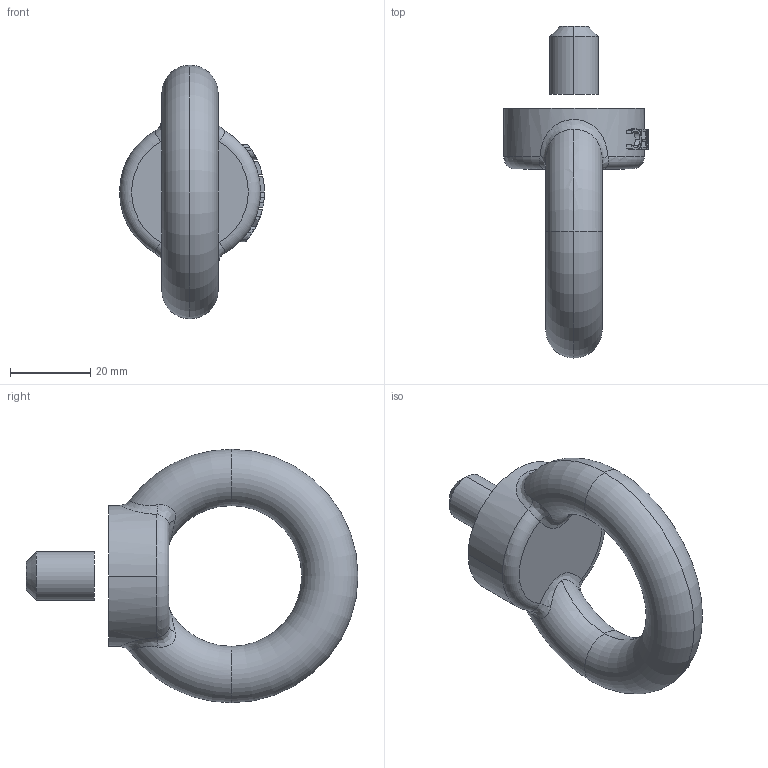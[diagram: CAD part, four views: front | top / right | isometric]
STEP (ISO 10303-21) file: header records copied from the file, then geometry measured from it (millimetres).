
FILE_DESCRIPTION(('STEP AP214'),'1');
FILE_NAME('c80312.stp','2017-03-22T15:05:59',('TraceParts'),('TraceParts S.A.'),'Spatial InterOp 3D',' ',' ');
FILE_SCHEMA(('automotive_design'));
Length unit declared in the file: millimetre
Products named in the file (2): c80312_1; c80312_2
Bounding box: 36 x 82.5 x 63 mm (x, y, z)
Volume: 34577.9 mm3; surface area: 9374.3 mm2
Topology: 2 solids, 2 shells, 124 faces, 331 edges, 216 vertices
Faces by surface type: plane 54, bspline 47, cylinder 13, torus 8, cone 2
Entity records: 6015 total; most frequent: CARTESIAN_POINT 2117, ORIENTED_EDGE 662, DIRECTION 493, EDGE_CURVE 331, VERTEX_POINT 216, AXIS2_PLACEMENT_3D 181, EDGE_LOOP 131, LINE 131
